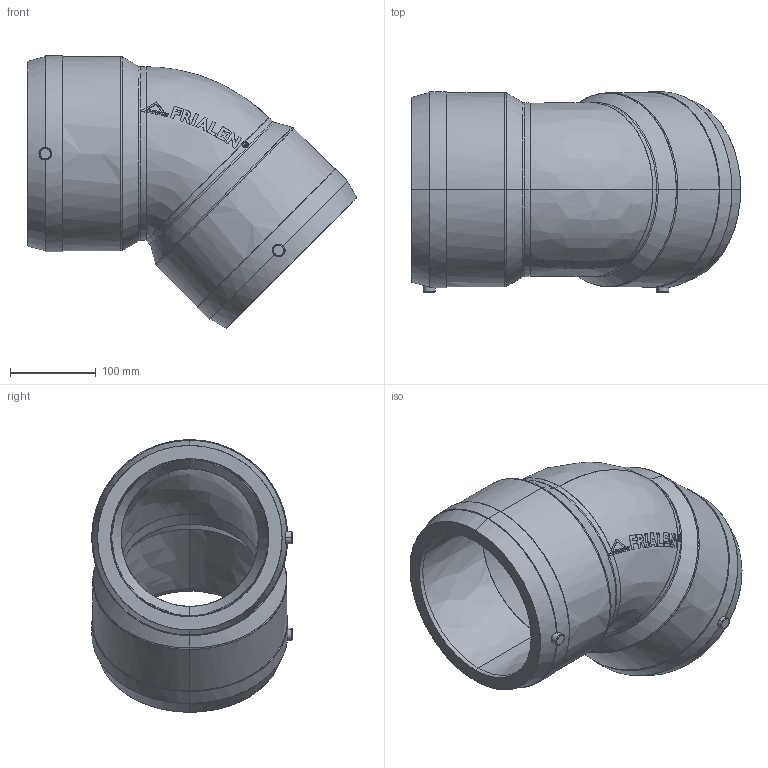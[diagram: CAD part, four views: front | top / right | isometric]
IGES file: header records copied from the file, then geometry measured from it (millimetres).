
Start section:  PTC IGES file: w45_d180_01.igs
Global section: file name: w45_d180_01.igs; native system: Pro/ENGINEER by Parametric Technology Corporation; preprocessor: 2011490; author: mtunjic; organization: Unknown; date: 20130812.112703; units: millimetre
Bounding box: 383.2 x 233.1 x 317.2 mm (x, y, z)
Surface area: 469721.5 mm2 (no closed solid volume)
Topology: 0 solids, 0 shells, 274 faces, 1436 edges, 1434 vertices
Faces by surface type: bspline 274
